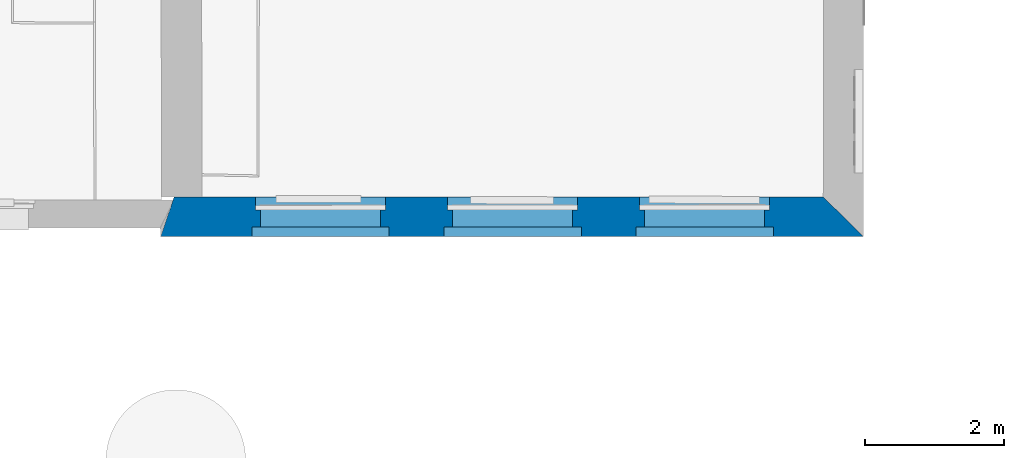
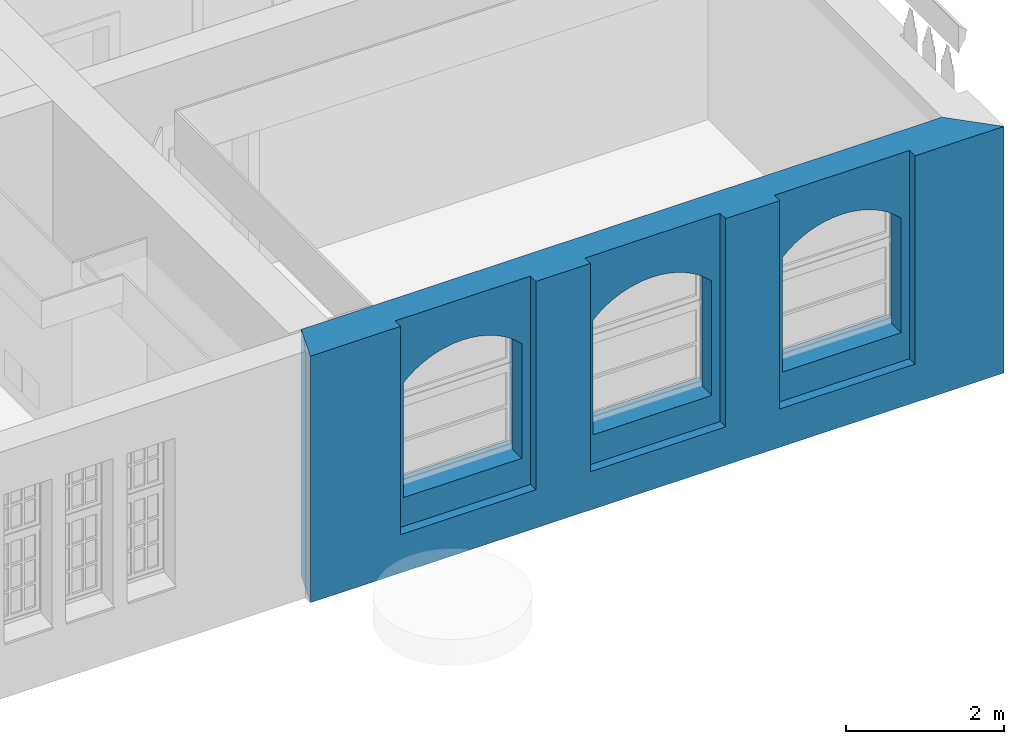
# One storey, part 45 of 158: 1 wall, 9 openings.
"""IFC2X3 building model written with IfcOpenShell, lengths in metres."""

from ifc_helpers import new_model, entity, si_unit, converted_unit, derived_unit, money_unit, direction, frame, origin_with_axes, origin_2d_with_axis, place, context, subcontext, project, spatial, polyline, rectangle, outline, extrude, material, layer, layer_set, layer_usage, type_object, element, save


model = new_model("IFC2X3")

# Units and contexts
model_context = context("Model", 3, precision=1e-05, world=origin_with_axes(), true_north=direction((0.0, 1.0)))
body_context = subcontext(model_context, "Body", "Model", "MODEL_VIEW")
ifc_project = project(units=[si_unit("LENGTHUNIT", "METRE"), si_unit("AREAUNIT", "SQUARE_METRE"), si_unit("VOLUMEUNIT", "CUBIC_METRE"), converted_unit("PLANEANGLEUNIT", "DEGREE", entity("IfcPlaneAngleMeasure", 0.0174532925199), si_unit("PLANEANGLEUNIT", "RADIAN"), dimensions=[0, 0, 0, 0, 0, 0, 0]), money_unit("EUR"), converted_unit("TIMEUNIT", "Year", entity("IfcTimeMeasure", 31556926.0), si_unit("TIMEUNIT", "SECOND"), dimensions=[0, 0, 1, 0, 0, 0, 0]), si_unit("MASSUNIT", "GRAM", prefix="KILO"), si_unit("THERMODYNAMICTEMPERATUREUNIT", "DEGREE_CELSIUS"), si_unit("LUMINOUSINTENSITYUNIT", "LUMEN"), si_unit("ENERGYUNIT", "JOULE", prefix="MEGA"), derived_unit("THERMALCONDUCTANCEUNIT", [(si_unit("POWERUNIT", "WATT"), 1), (si_unit("LENGTHUNIT", "METRE"), -1), (si_unit("THERMODYNAMICTEMPERATUREUNIT", "KELVIN"), -1)]), derived_unit("SPECIFICHEATCAPACITYUNIT", [(si_unit("ENERGYUNIT", "JOULE"), 1), (si_unit("MASSUNIT", "GRAM", prefix="KILO"), -1), (si_unit("THERMODYNAMICTEMPERATUREUNIT", "KELVIN"), -1)]), derived_unit("MASSDENSITYUNIT", [(si_unit("MASSUNIT", "GRAM", prefix="KILO"), 1), (si_unit("VOLUMEUNIT", "CUBIC_METRE"), -1)])], contexts=[model_context])

# Site, building, storey
site_placement = place(None, origin_with_axes())
site = spatial("IfcSite", under=ifc_project, at=site_placement, Name="Gelände", CompositionType="ELEMENT")
building_placement = place(site_placement, origin_with_axes())
building = spatial("IfcBuilding", under=site, at=building_placement, Name="Gebäude", CompositionType="ELEMENT")
storey_placement = place(building_placement, origin_with_axes())
storey = spatial("IfcBuildingStorey", under=building, at=storey_placement, Name="ERDGESCHOSS", CompositionType="ELEMENT", Elevation=0.0)

# Wall, openings
ifc_material = material(Name="05_ALLGEMEIN - TRAGENDE BAUTEILE")
ifc_layer = layer(ifc_material, 0.57, ventilated="UNKNOWN")
ifc_layer_set = layer_set([ifc_layer], Name="05_ALLGEMEIN - TRAGENDE BAUTEILE 0.57")
ifc_layer_usage = layer_usage(ifc_layer_set, "AXIS2", "NEGATIVE", 0.57)
wall_type = type_object("IfcWallType", Name="05_ALLGEMEIN - TRAGENDE BAUTEILE 570", PredefinedType="ELEMENTEDWALL")
wall_placement = place(storey_placement, frame((21.9753819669, 9.88892838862, -0.21), z_axis=(0.0, 0.0, 1.0), x_axis=(0.999999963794, 0.000269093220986, 0.0)))
wall = element("IfcWallStandardCase", 1, at=wall_placement, inside=storey, type_object=wall_type, material=ifc_layer_usage, Name="Wand-036", ObjectType="ELEMENTEDWALL", context=body_context, shape_type="SweptSolid", body=[
    extrude(outline(polyline([(0.0, 0.0), (10.1378081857, 0.0), (9.55839596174, 0.57), (0.19476488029, 0.57), (0.0, 0.0)])), origin_with_axes(), (0.0, 0.0, 1.0), 3.81),
])
opening_1_placement = place(wall_placement, frame((7.84635320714, 0.0, 1.03753166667), z_axis=(0.0, 0.0, 1.0), x_axis=(1.0, 0.0, 0.0)))
element("IfcOpeningElement", 2, at=opening_1_placement, cuts=wall, Name="Fenster-015", context=body_context, shape_type="SweptSolid", body=[
    extrude(outline(polyline([(-0.8665, 0.0), (-0.8665, -1.77155007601), (-0.77749155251, -1.85250576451), (-0.680959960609, -1.92432483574), (-0.577839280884, -1.98631235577), (-0.469127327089, -2.0378685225), (-0.355876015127, -2.07849446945), (-0.239181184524, -2.10779709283), (-0.120171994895, -2.12549285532), (0.0, -2.13141052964), (0.120171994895, -2.12549285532), (0.239181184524, -2.10779709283), (0.355876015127, -2.07849446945), (0.469127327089, -2.0378685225), (0.577839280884, -1.98631235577), (0.680959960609, -1.92432483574), (0.77749155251, -1.85250576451), (0.8665, -1.77155007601), (0.8665, 0.0), (-0.8665, 0.0)])), frame((0.0, 0.382213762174, 0.0), z_axis=(0.0, -1.0, 0.0), x_axis=(-1.0, 0.0, 0.0)), (0.0, 0.0, 1.0), 0.952213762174),
    extrude(outline(polyline([(0.9365, 0.0), (0.9365, 1.8), (0.841584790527, 1.89007913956), (0.738051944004, 1.97010474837), (0.626961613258, 2.03925738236), (0.509451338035, 2.09682893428), (0.386724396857, 2.14222988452), (0.260037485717, 2.17499533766), (0.130687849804, 2.19478978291), (0.0, 2.20141052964), (-0.130687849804, 2.19478978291), (-0.260037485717, 2.17499533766), (-0.386724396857, 2.14222988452), (-0.509451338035, 2.09682893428), (-0.626961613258, 2.03925738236), (-0.738051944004, 1.97010474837), (-0.841584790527, 1.89007913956), (-0.9365, 1.8), (-0.9365, 0.0), (0.9365, 0.0)])), frame((0.0, 0.382213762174, 0.0), z_axis=(0.0, 1.0, 0.0), x_axis=(-1.0, 0.0, 0.0)), (0.0, 0.0, 1.0), 0.757786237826),
])
opening_2_placement = place(wall_placement, frame((5.08033686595, 0.0, 0.591785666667), z_axis=(0.0, 0.0, 1.0), x_axis=(1.0, 0.0, 0.0)))
element("IfcOpeningElement", 3, at=opening_2_placement, cuts=wall, Name="Fenster-015", ObjectType="Recess", context=body_context, shape_type="SweptSolid", body=[
    extrude(rectangle(XDim=1.97800129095, YDim=3.21821433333, at=origin_2d_with_axis()), frame((0.0, 0.137560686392, 1.60910716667), z_axis=(0.0, 1.0, 0.0), x_axis=(1.0, 0.0, 0.0)), (0.0, 0.0, -1.0), 0.707560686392),
])
opening_3_placement = place(wall_placement, frame((2.29509402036, 0.0, 0.18), z_axis=(0.0, 0.0, 1.0), x_axis=(1.0, 0.0, 0.0)))
element("IfcOpeningElement", 4, at=opening_3_placement, cuts=wall, Name="Fenster-017", ObjectType="Recess", context=body_context, shape_type="SweptSolid", body=[
    extrude(rectangle(XDim=1.91133415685, YDim=0.720413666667, at=origin_2d_with_axis()), frame((0.0, 0.462771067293, 0.360206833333), z_axis=(0.0, -1.0, 0.0), x_axis=(1.0, 0.0, 0.0)), (0.0, 0.0, -1.0), 0.677228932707),
])
opening_4_placement = place(wall_placement, frame((5.06568675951, 0.0, 0.18), z_axis=(0.0, 0.0, 1.0), x_axis=(1.0, 0.0, 0.0)))
element("IfcOpeningElement", 5, at=opening_4_placement, cuts=wall, Name="Fenster-017", ObjectType="Recess", context=body_context, shape_type="SweptSolid", body=[
    extrude(rectangle(XDim=1.91133415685, YDim=0.720413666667, at=origin_2d_with_axis()), frame((0.0, 0.437843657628, 0.360206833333), z_axis=(0.0, -1.0, 0.0), x_axis=(1.0, 0.0, 0.0)), (0.0, 0.0, -1.0), 0.702156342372),
])
opening_5_placement = place(wall_placement, frame((7.82468917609, 0.0, 0.18), z_axis=(0.0, 0.0, 1.0), x_axis=(1.0, 0.0, 0.0)))
element("IfcOpeningElement", 6, at=opening_5_placement, cuts=wall, Name="Fenster-017", ObjectType="Recess", context=body_context, shape_type="SweptSolid", body=[
    extrude(rectangle(XDim=1.92839295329, YDim=0.720413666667, at=origin_2d_with_axis()), frame((0.0, 0.453654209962, 0.360206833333), z_axis=(0.0, -1.0, 0.0), x_axis=(1.0, 0.0, 0.0)), (0.0, 0.0, -1.0), 0.686345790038),
])
opening_6_placement = place(wall_placement, frame((2.30744463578, 0.0, 0.591785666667), z_axis=(0.0, 0.0, 1.0), x_axis=(1.0, 0.0, 0.0)))
element("IfcOpeningElement", 7, at=opening_6_placement, cuts=wall, Name="Fenster-015", ObjectType="Recess", context=body_context, shape_type="SweptSolid", body=[
    extrude(rectangle(XDim=1.97800129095, YDim=3.21821433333, at=origin_2d_with_axis()), frame((0.0, 0.137560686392, 1.60910716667), z_axis=(0.0, 1.0, 0.0), x_axis=(1.0, 0.0, 0.0)), (0.0, 0.0, -1.0), 0.707560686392),
])
opening_7_placement = place(wall_placement, frame((7.84922749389, 0.0, 0.591785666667), z_axis=(0.0, 0.0, 1.0), x_axis=(1.0, 0.0, 0.0)))
element("IfcOpeningElement", 8, at=opening_7_placement, cuts=wall, Name="Fenster-015", ObjectType="Recess", context=body_context, shape_type="SweptSolid", body=[
    extrude(rectangle(XDim=1.97800129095, YDim=3.21821433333, at=origin_2d_with_axis()), frame((0.0, 0.137560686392, 1.60910716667), z_axis=(0.0, 1.0, 0.0), x_axis=(1.0, 0.0, 0.0)), (0.0, 0.0, -1.0), 0.707560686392),
])
opening_8_placement = place(wall_placement, frame((5.0774625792, 0.0, 1.03753166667), z_axis=(0.0, 0.0, 1.0), x_axis=(1.0, 0.0, 0.0)))
element("IfcOpeningElement", 9, at=opening_8_placement, cuts=wall, Name="Fenster-015", context=body_context, shape_type="SweptSolid", body=[
    extrude(outline(polyline([(-0.8665, 0.0), (-0.8665, -1.77155007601), (-0.77749155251, -1.85250576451), (-0.680959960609, -1.92432483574), (-0.577839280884, -1.98631235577), (-0.469127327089, -2.0378685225), (-0.355876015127, -2.07849446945), (-0.239181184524, -2.10779709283), (-0.120171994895, -2.12549285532), (0.0, -2.13141052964), (0.120171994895, -2.12549285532), (0.239181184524, -2.10779709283), (0.355876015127, -2.07849446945), (0.469127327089, -2.0378685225), (0.577839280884, -1.98631235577), (0.680959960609, -1.92432483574), (0.77749155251, -1.85250576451), (0.8665, -1.77155007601), (0.8665, 0.0), (-0.8665, 0.0)])), frame((0.0, 0.382213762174, 0.0), z_axis=(0.0, -1.0, 0.0), x_axis=(-1.0, 0.0, 0.0)), (0.0, 0.0, 1.0), 0.952213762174),
    extrude(outline(polyline([(0.9365, 0.0), (0.9365, 1.8), (0.841584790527, 1.89007913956), (0.738051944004, 1.97010474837), (0.626961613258, 2.03925738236), (0.509451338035, 2.09682893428), (0.386724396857, 2.14222988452), (0.260037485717, 2.17499533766), (0.130687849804, 2.19478978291), (0.0, 2.20141052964), (-0.130687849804, 2.19478978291), (-0.260037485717, 2.17499533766), (-0.386724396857, 2.14222988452), (-0.509451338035, 2.09682893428), (-0.626961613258, 2.03925738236), (-0.738051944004, 1.97010474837), (-0.841584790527, 1.89007913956), (-0.9365, 1.8), (-0.9365, 0.0), (0.9365, 0.0)])), frame((0.0, 0.382213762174, 0.0), z_axis=(0.0, 1.0, 0.0), x_axis=(-1.0, 0.0, 0.0)), (0.0, 0.0, 1.0), 0.757786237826),
])
opening_9_placement = place(wall_placement, frame((2.30457034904, 0.0, 1.03753166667), z_axis=(0.0, 0.0, 1.0), x_axis=(1.0, 0.0, 0.0)))
element("IfcOpeningElement", 10, at=opening_9_placement, cuts=wall, Name="Fenster-015", context=body_context, shape_type="SweptSolid", body=[
    extrude(outline(polyline([(-0.8665, 0.0), (-0.8665, -1.77155007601), (-0.77749155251, -1.85250576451), (-0.680959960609, -1.92432483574), (-0.577839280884, -1.98631235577), (-0.469127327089, -2.0378685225), (-0.355876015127, -2.07849446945), (-0.239181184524, -2.10779709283), (-0.120171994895, -2.12549285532), (0.0, -2.13141052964), (0.120171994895, -2.12549285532), (0.239181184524, -2.10779709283), (0.355876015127, -2.07849446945), (0.469127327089, -2.0378685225), (0.577839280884, -1.98631235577), (0.680959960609, -1.92432483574), (0.77749155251, -1.85250576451), (0.8665, -1.77155007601), (0.8665, 0.0), (-0.8665, 0.0)])), frame((0.0, 0.382213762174, 0.0), z_axis=(0.0, -1.0, 0.0), x_axis=(-1.0, 0.0, 0.0)), (0.0, 0.0, 1.0), 0.952213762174),
    extrude(outline(polyline([(0.9365, 0.0), (0.9365, 1.8), (0.841584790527, 1.89007913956), (0.738051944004, 1.97010474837), (0.626961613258, 2.03925738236), (0.509451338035, 2.09682893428), (0.386724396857, 2.14222988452), (0.260037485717, 2.17499533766), (0.130687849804, 2.19478978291), (0.0, 2.20141052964), (-0.130687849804, 2.19478978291), (-0.260037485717, 2.17499533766), (-0.386724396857, 2.14222988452), (-0.509451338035, 2.09682893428), (-0.626961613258, 2.03925738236), (-0.738051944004, 1.97010474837), (-0.841584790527, 1.89007913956), (-0.9365, 1.8), (-0.9365, 0.0), (0.9365, 0.0)])), frame((0.0, 0.382213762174, 0.0), z_axis=(0.0, 1.0, 0.0), x_axis=(-1.0, 0.0, 0.0)), (0.0, 0.0, 1.0), 0.757786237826),
])

save(model, "model.ifc")
